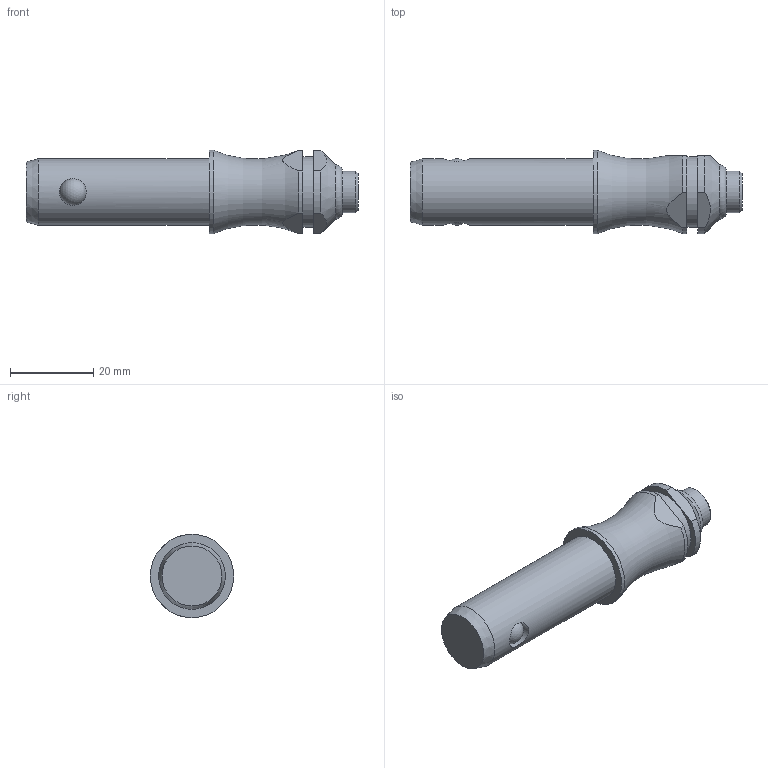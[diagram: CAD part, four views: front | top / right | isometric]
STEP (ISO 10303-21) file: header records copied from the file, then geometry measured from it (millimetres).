
FILE_DESCRIPTION( ( 'STEP AP203' ), '1' );
FILE_NAME( 'C:/Temp/Ganter_Step_05_03_2020/data/3_1/gn113_3/Stainless Steel-Ball lock pin GN 113.3-16-30 (activated).stp', '2020-03-12T08:18:51', ( 'License CC BY-ND 4.0' ), ( 'CADENAS' ), ' ', 'PARTsolutions', ' ' );
FILE_SCHEMA( ( 'CONFIG_CONTROL_DESIGN' ) );
Length unit declared in the file: millimetre
Products named in the file (1): _Stainless Steel-Ball lock pin GN 113.3-16-30 (activated)
Bounding box: 79.75 x 20 x 20 mm (x, y, z)
Volume: 16395.2 mm3; surface area: 4818.4 mm2
Topology: 1 solids, 1 shells, 30 faces, 68 edges, 43 vertices
Faces by surface type: cylinder 12, plane 11, cone 3, torus 2, sphere 2
Full cylindrical faces by diameter (mm): 6.5 x2, 10 x1, 16 x1, 17 x1, 20 x1
Entity records: 1014 total; most frequent: CARTESIAN_POINT 364, DIRECTION 130, ORIENTED_EDGE 102, AXIS2_PLACEMENT_3D 56, EDGE_CURVE 51, EDGE_LOOP 46, VERTEX_POINT 40, FACE_OUTER_BOUND 38
